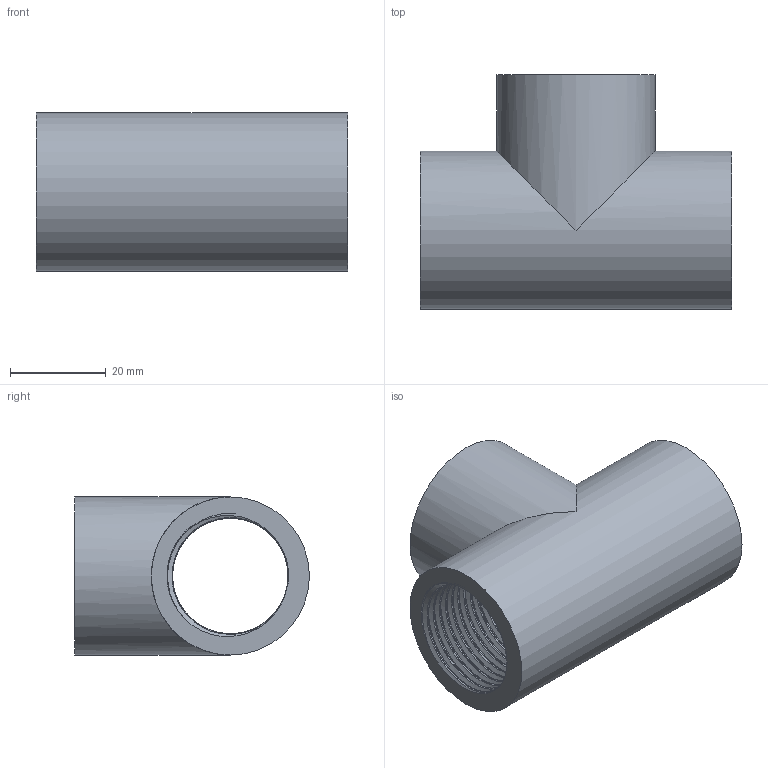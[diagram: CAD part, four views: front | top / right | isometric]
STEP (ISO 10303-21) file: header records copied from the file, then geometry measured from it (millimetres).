
FILE_DESCRIPTION(/* description */ ('(descrizione)'),/* implementation_level */ '2;1');
FILE_NAME(/* name */ 'C:\Users\POLYPIPE\Desktop\DATASET INVENTOR\LIBRERIA EFFAST\RACCORDI 3DxWEB\RER\3D_RERTIE\3D_RERTIE025C.stp',/* time_stamp */ '2018-01-19T17:20:31+01:00',/* author */ ('POLYPIPE'),/* organization */ ('Polypipe Italia s.r.l.'),/* preprocessor_version */ 'ST-DEVELOPER v16.1',/* originating_system */ 'Autodesk Inventor 2016',/* authorisation */ '');
FILE_SCHEMA (('CONFIG_CONTROL_DESIGN'));
Length unit declared in the file: millimetre
Products named in the file (1): 3D_RERTIE
Bounding box: 65 x 49 x 33 mm (x, y, z)
Volume: 28824.9 mm3; surface area: 18806.8 mm2
Topology: 1 solids, 1 shells, 25 faces, 75 edges, 50 vertices
Faces by surface type: bspline 15, plane 6, cylinder 4
Full cylindrical faces by diameter (mm): 33 x2
Entity records: 13622 total; most frequent: CARTESIAN_POINT 13035, ORIENTED_EDGE 140, DIRECTION 75, EDGE_CURVE 70, VERTEX_POINT 48, B_SPLINE_CURVE_WITH_KNOTS 39, AXIS2_PLACEMENT_3D 33, EDGE_LOOP 32
